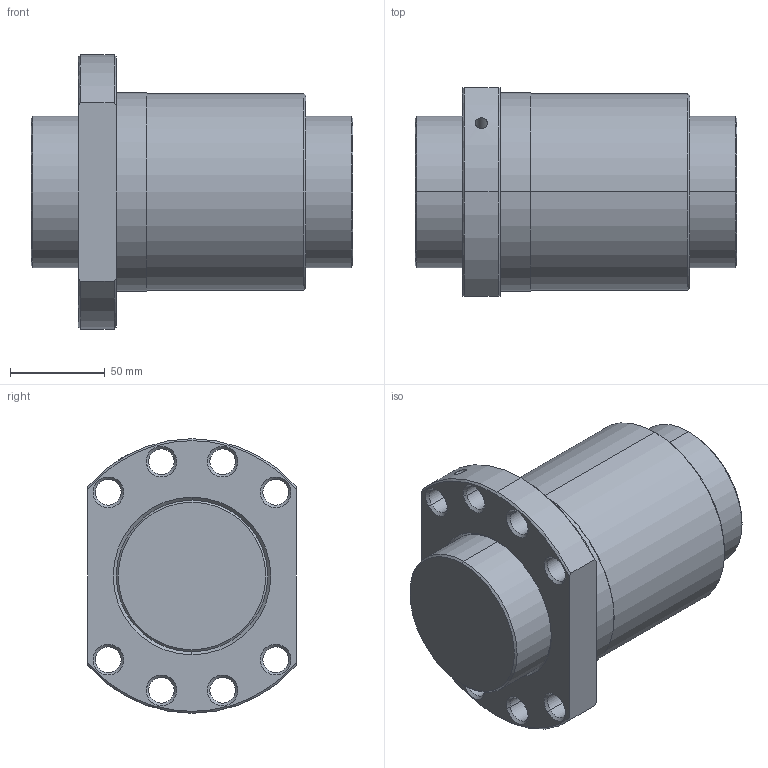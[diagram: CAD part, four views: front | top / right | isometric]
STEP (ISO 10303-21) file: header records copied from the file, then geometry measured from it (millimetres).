
FILE_DESCRIPTION(('no description'),'unknown implementation level');
FILE_NAME('R80_10T6_DEB_170_170_0_023_42.stp',' ',('HIWIN GmbH'),('CADClick - KiM GmbH - www.kimweb.de'),'unknown preprocess','ACIS','unknown authorization');
FILE_SCHEMA(('CONFIG_CONTROL_DESIGN'));
Length unit declared in the file: millimetre
Products named in the file (2): 1; 2
Bounding box: 170 x 110 x 145 mm (x, y, z)
Volume: 1362809.7 mm3; surface area: 146001.5 mm2
Topology: 2 solids, 2 shells, 90 faces, 204 edges, 119 vertices
Faces by surface type: cone 52, cylinder 30, plane 8
Entity records: 2677 total; most frequent: CARTESIAN_POINT 496, DIRECTION 484, ORIENTED_EDGE 404, EDGE_CURVE 202, AXIS2_PLACEMENT_3D 200, VERTEX_POINT 119, EDGE_LOOP 111, CIRCLE 108
